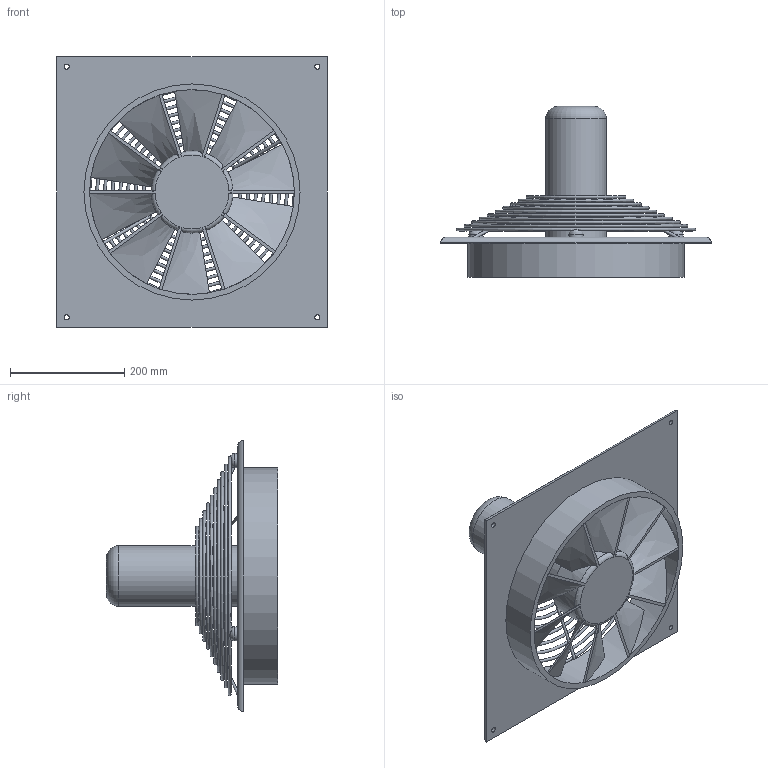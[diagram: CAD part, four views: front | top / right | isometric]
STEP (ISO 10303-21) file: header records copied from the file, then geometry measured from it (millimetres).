
FILE_DESCRIPTION(/* description */ (''),/* implementation_level */ '2;1');
FILE_NAME(/* name */ 'Z:\Output\HQW_355-4_EX-00444-023.stp',/* time_stamp */ '2020-05-11T13:40:24+02:00',/* author */ ('pareshmistry'),/* organization */ (''),/* preprocessor_version */ 'ST-DEVELOPER v17.2',/* originating_system */ 'Autodesk Inventor 2019',/* authorisation */ '');
FILE_SCHEMA (('AUTOMOTIVE_DESIGN { 1 0 10303 214 3 1 1 }'));
Length unit declared in the file: millimetre
Products named in the file (1): HQW EC 450
Bounding box: 475 x 300 x 475 mm (x, y, z)
Volume: 5358874.3 mm3; surface area: 863514.4 mm2
Topology: 11 solids, 11 shells, 105 faces, 332 edges, 236 vertices
Faces by surface type: bspline 33, plane 28, cylinder 23, torus 21
Full cylindrical faces by diameter (mm): 5 x6, 9 x4, 25 x3, 106 x1, 144 x1, 359 x1, 379 x1
Entity records: 5445 total; most frequent: CARTESIAN_POINT 2449, ORIENTED_EDGE 704, DIRECTION 504, EDGE_CURVE 352, VERTEX_POINT 256, AXIS2_PLACEMENT_3D 207, EDGE_LOOP 126, B_SPLINE_CURVE_WITH_KNOTS 125
